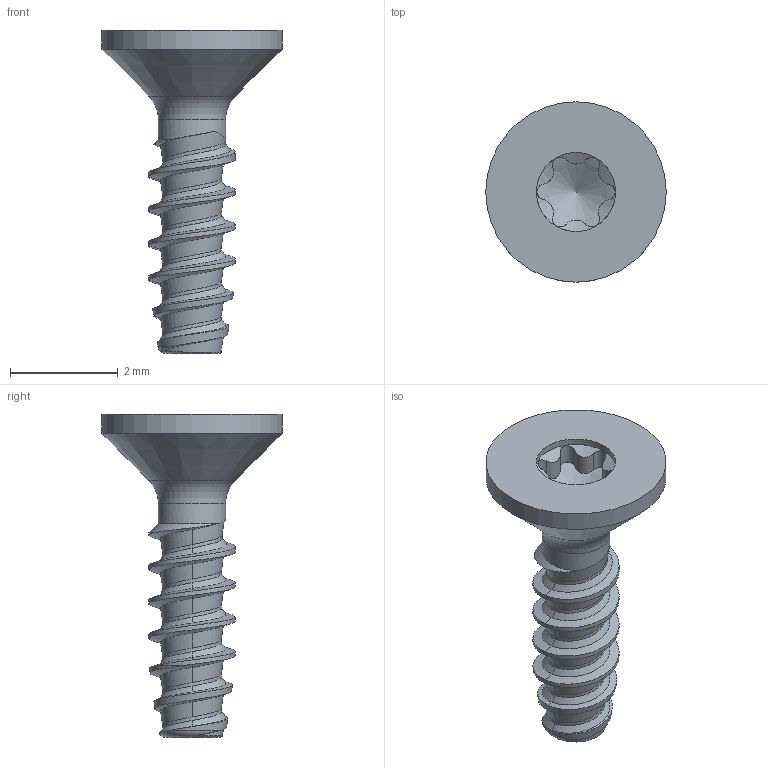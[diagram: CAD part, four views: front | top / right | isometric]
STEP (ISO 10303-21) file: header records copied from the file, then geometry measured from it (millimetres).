
FILE_DESCRIPTION(/* description */ (''),/* implementation_level */ '2;1');
FILE_NAME(/* name */ 'KN6041-STSplus16x6-T5.step',/* time_stamp */ '2017-10-12T08:39:27+02:00',/* author */ (''),/* organization */ (''),/* preprocessor_version */ 'ST-DEVELOPER v16',/* originating_system */ 'SIEMENS PLM Software NX 10.0',/* authorisation */ '');
FILE_SCHEMA (('AUTOMOTIVE_DESIGN { 1 0 10303 214 3 1 1 1 }'));
Length unit declared in the file: millimetre
Products named in the file (1): KN6041-STSplus16x6-T5
Bounding box: 3.35 x 3.35 x 6 mm (x, y, z)
Volume: 12.5 mm3; surface area: 51.9 mm2
Topology: 1 solids, 1 shells, 56 faces, 145 edges, 91 vertices
Faces by surface type: bspline 29, cylinder 17, cone 5, plane 3, torus 2
Full cylindrical faces by diameter (mm): 1.25 x1, 1.47 x1, 3.35 x1
Entity records: 3832 total; most frequent: CARTESIAN_POINT 2760, ORIENTED_EDGE 262, EDGE_CURVE 131, DIRECTION 116, VERTEX_POINT 86, B_SPLINE_CURVE_WITH_KNOTS 83, EDGE_LOOP 64, ADVANCED_FACE 56
